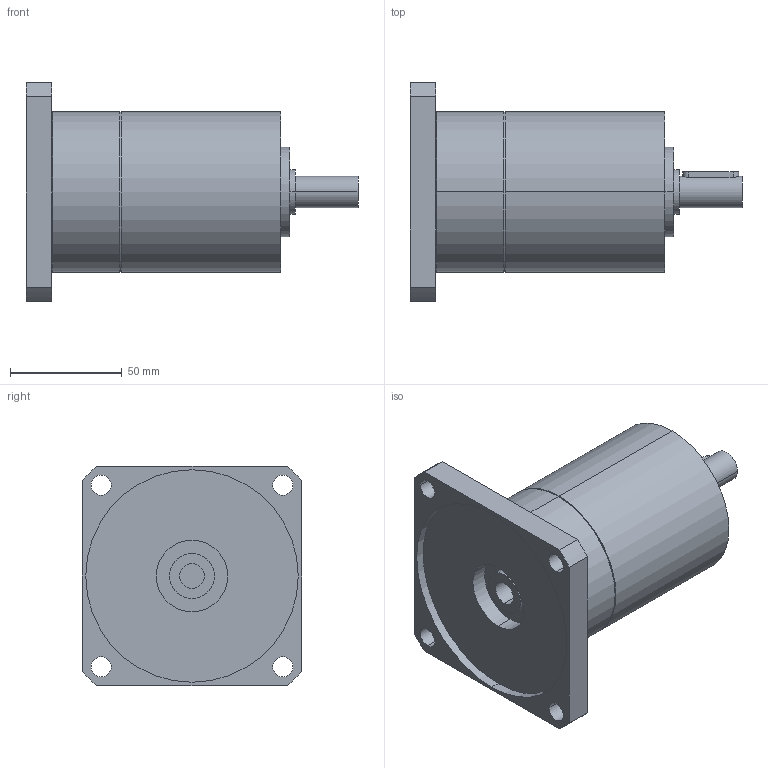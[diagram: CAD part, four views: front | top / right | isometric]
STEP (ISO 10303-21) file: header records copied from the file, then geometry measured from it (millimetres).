
FILE_DESCRIPTION(('CoCreate Modeling STEP Export'),'2;1');
FILE_NAME('GPT75_ig-9-12-16-20-25-28-35-40-50-70-100_14_B14T_11_P08.stp','2014-08-27T13:08:27',(''),(''),'CoCreate Modeling STEP processor for AP214 (Solid Model)','CoCreate Modeling 16.00C 25-Feb-2009 (C) Parametric Technology GmbH','');
FILE_SCHEMA(('AUTOMOTIVE_DESIGN { 1 0 10303 214 1 1 1 1 }'));
Length unit declared in the file: millimetre
Products named in the file (2): GPT75_ig-9-12-16-20-25-28-35-40-50-70-100_14_B14T_11_P08
Assembly tree (1 placements, depth 2):
  GPT75_ig-9-12-16-20-25-28-35-40-50-70-100_14_B14T_11_P08
    GPT75_ig-9-12-16-20-25-28-35-40-50-70-100_14_B14T_11_P08
Bounding box: 148.5 x 98 x 98 mm (x, y, z)
Volume: 496955.3 mm3; surface area: 53800.9 mm2
Topology: 1 solids, 1 shells, 69 faces, 161 edges, 108 vertices
Faces by surface type: cylinder 42, plane 23, cone 4
Entity records: 2136 total; most frequent: CARTESIAN_POINT 659, ORIENTED_EDGE 322, DIRECTION 262, EDGE_CURVE 161, VERTEX_POINT 108, AXIS2_PLACEMENT_3D 99, EDGE_LOOP 91, FACE_OUTER_BOUND 69
